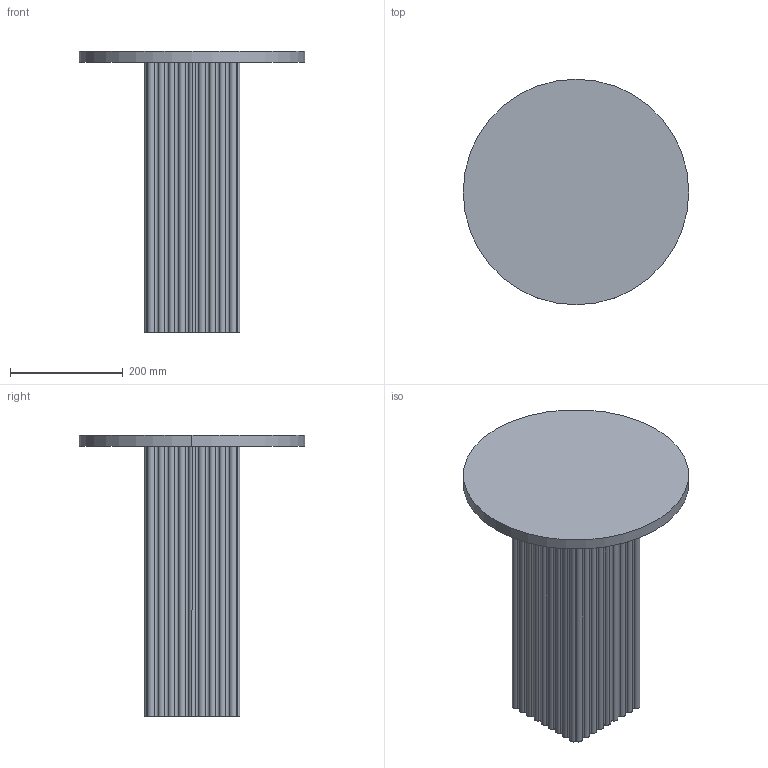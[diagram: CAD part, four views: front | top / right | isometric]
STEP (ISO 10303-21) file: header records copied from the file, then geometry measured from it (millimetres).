
FILE_DESCRIPTION(/* description */ (''),/* implementation_level */ '2;1');
FILE_NAME(/* name */ 'Soho-Side-Table_NORR11',/* time_stamp */ '2024-11-15T13:00:58+01:00',/* author */ (''),/* organization */ (''),/* preprocessor_version */ 'ST-DEVELOPER v19.2',/* originating_system */ 'Rhino 8.13',/* authorisation */ '');
FILE_SCHEMA (('CONFIG_CONTROL_DESIGN'));
Length unit declared in the file: millimetre
Products named in the file (1): Document
Bounding box: 400 x 400 x 500 mm (x, y, z)
Volume: 15409666.2 mm3; surface area: 725340.9 mm2
Topology: 2 solids, 2 shells, 82 faces, 234 edges, 156 vertices
Faces by surface type: cylinder 78, plane 4
Entity records: 3166 total; most frequent: CARTESIAN_POINT 864, ORIENTED_EDGE 468, DIRECTION 398, AXIS2_PLACEMENT_3D 240, EDGE_CURVE 234, TRIMMED_CURVE 156, CIRCLE 156, VERTEX_POINT 156
